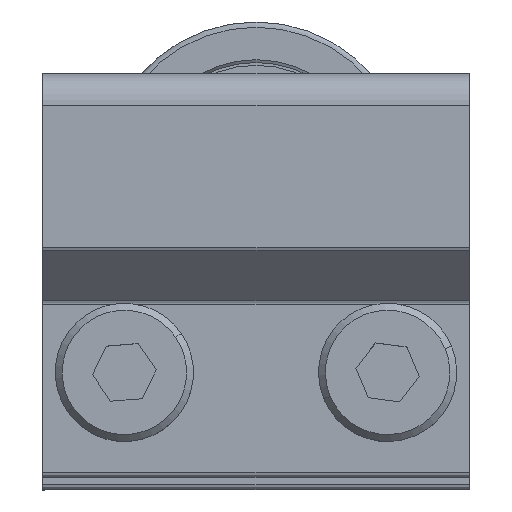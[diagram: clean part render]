
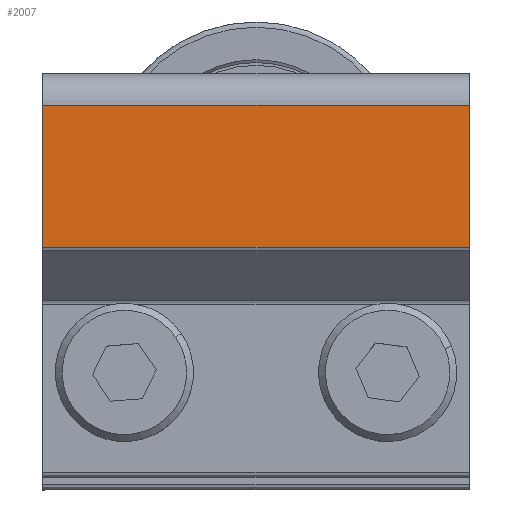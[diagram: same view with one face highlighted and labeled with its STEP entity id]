
A CAD part, top view. The second image highlights one B-rep face of the part: STEP entity #2007.
In plain terms, the highlighted planar face has unit normal (0, 0, 1) as drawn and (1, 0, 0) by its records, which use the part's own axes.
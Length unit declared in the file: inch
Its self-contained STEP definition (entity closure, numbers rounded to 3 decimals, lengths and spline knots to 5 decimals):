
#1501=DIRECTION('',(0.,0.,1.));
#1502=VECTOR('',#1501,1.216);
#1503=CARTESIAN_POINT('',(0.375,0.35921,-0.608));
#1504=LINE('',#1503,#1502);
#1505=DIRECTION('',(0.,-1.,0.));
#1506=VECTOR('',#1505,0.40379);
#1507=CARTESIAN_POINT('',(0.375,0.763,-0.608));
#1508=LINE('',#1507,#1506);
#1586=DIRECTION('',(0.,-1.,0.));
#1587=VECTOR('',#1586,0.40379);
#1588=CARTESIAN_POINT('',(0.375,0.763,0.608));
#1589=LINE('',#1588,#1587);
#1590=DIRECTION('',(0.,0.,-1.));
#1591=VECTOR('',#1590,1.216);
#1592=CARTESIAN_POINT('',(0.375,0.763,0.608));
#1593=LINE('',#1592,#1591);
#1758=CARTESIAN_POINT('',(0.375,0.35921,-0.608));
#1759=CARTESIAN_POINT('',(0.375,0.35921,0.608));
#1760=VERTEX_POINT('',#1758);
#1761=VERTEX_POINT('',#1759);
#1799=CARTESIAN_POINT('',(0.375,0.763,-0.608));
#1801=VERTEX_POINT('',#1799);
#1844=CARTESIAN_POINT('',(0.375,0.763,0.608));
#1845=VERTEX_POINT('',#1844);
#1995=CARTESIAN_POINT('',(0.375,0.763,0.608));
#1996=DIRECTION('',(-1.,0.,0.));
#1997=DIRECTION('',(0.,-1.,0.));
#1998=AXIS2_PLACEMENT_3D('',#1995,#1996,#1997);
#1999=PLANE('',#1998);
#2000=ORIENTED_EDGE('',*,*,#1912,.F.);
#2002=ORIENTED_EDGE('',*,*,#2001,.T.);
#2003=ORIENTED_EDGE('',*,*,#1953,.T.);
#2004=ORIENTED_EDGE('',*,*,#1943,.T.);
#2005=EDGE_LOOP('',(#2000,#2002,#2003,#2004));
#2006=FACE_OUTER_BOUND('',#2005,.F.);
#1912=EDGE_CURVE('',#1845,#1761,#1589,.T.);
#1943=EDGE_CURVE('',#1760,#1761,#1504,.T.);
#1953=EDGE_CURVE('',#1801,#1760,#1508,.T.);
#2001=EDGE_CURVE('',#1845,#1801,#1593,.T.);
#2007=ADVANCED_FACE('',(#2006),#1999,.F.);
